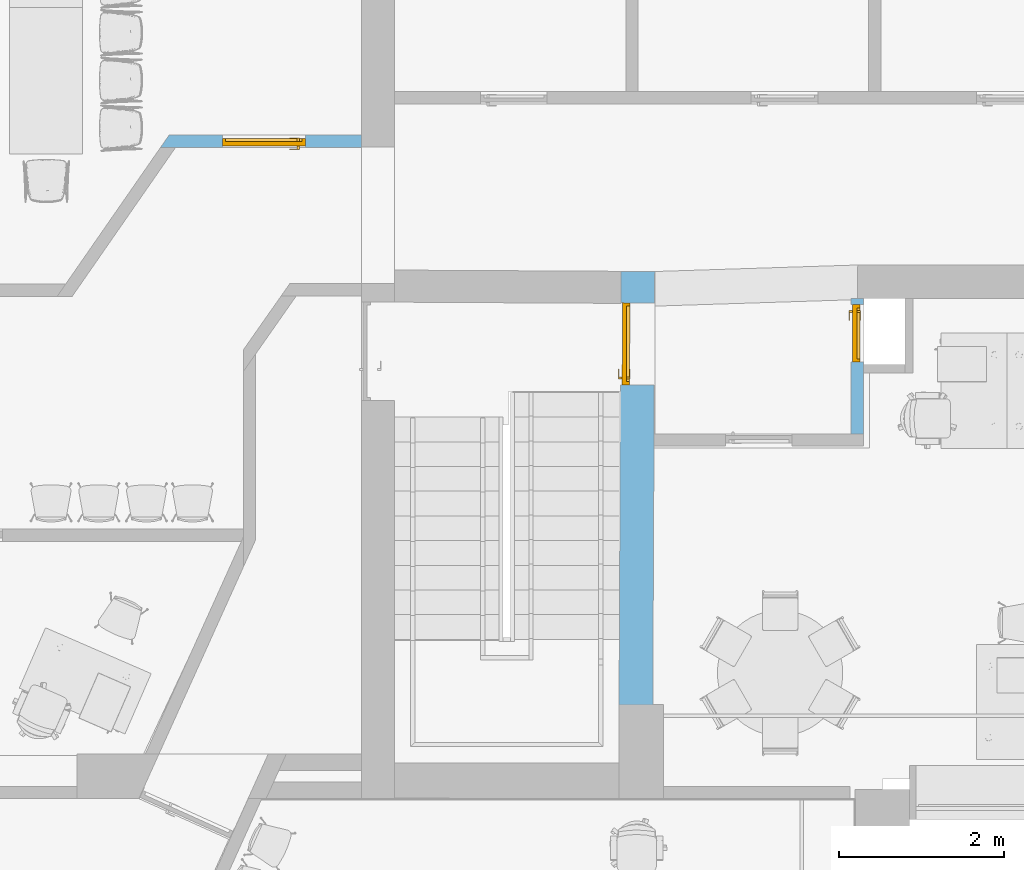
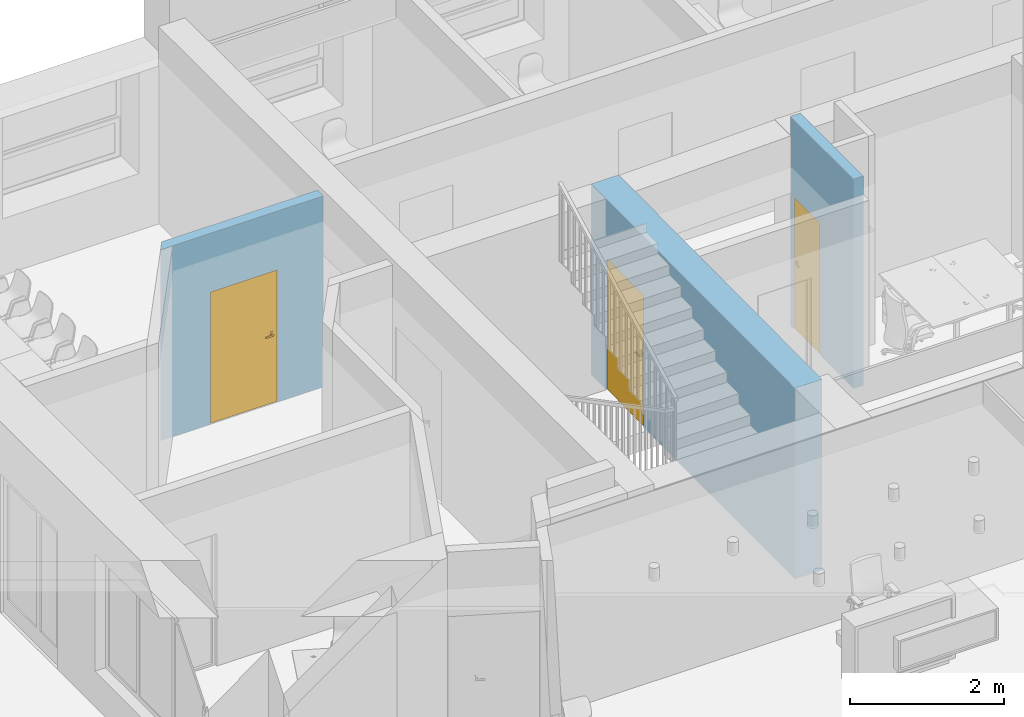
# One storey, part 16 of 25: 3 doors, 3 openings, plus 3 elements that do not belong to this part.
"""IFC2X3 building model written with IfcOpenShell, lengths in millimetres."""

from ifc_helpers import new_model, entity, si_unit, converted_unit, derived_unit, direction, frame, frame_2d, origin, place, context, subcontext, project, spatial, polyline, rectangle, outline, extrude, clip, bounded_halfspace, faceted_brep, source, transform, mapped, material, material_list, layer, layer_set, layer_usage, type_object, type_shapes, element, fill, save


model = new_model("IFC2X3")

# Units and contexts
model_context = context("Model", 3, precision=0.01, world=origin(), true_north=direction((6.12303176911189e-17, 1.0)))
context_of_model = context(None, 3, precision=0.01, world=origin(), true_north=direction((6.12303176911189e-17, 1.0)))
body_context = subcontext(model_context, "Body", "Model", "MODEL_VIEW")
ifc_project = project(units=[si_unit("LENGTHUNIT", "METRE", prefix="MILLI"), si_unit("AREAUNIT", "SQUARE_METRE"), si_unit("VOLUMEUNIT", "CUBIC_METRE"), converted_unit("PLANEANGLEUNIT", "DEGREE", entity("IfcRatioMeasure", 0.0174532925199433), si_unit("PLANEANGLEUNIT", "RADIAN"), dimensions=[0, 0, 0, 0, 0, 0, 0]), si_unit("MASSUNIT", "GRAM", prefix="KILO"), derived_unit("MASSDENSITYUNIT", [(si_unit("MASSUNIT", "GRAM", prefix="KILO"), 1), (si_unit("LENGTHUNIT", "METRE"), -3)]), si_unit("TIMEUNIT", "SECOND"), si_unit("FREQUENCYUNIT", "HERTZ"), si_unit("THERMODYNAMICTEMPERATUREUNIT", "DEGREE_CELSIUS"), derived_unit("THERMALTRANSMITTANCEUNIT", [(si_unit("MASSUNIT", "GRAM", prefix="KILO"), 1), (si_unit("THERMODYNAMICTEMPERATUREUNIT", "KELVIN"), -1), (si_unit("TIMEUNIT", "SECOND"), -3)]), derived_unit("VOLUMETRICFLOWRATEUNIT", [(si_unit("LENGTHUNIT", "METRE"), 3), (si_unit("TIMEUNIT", "SECOND"), -1)]), si_unit("ELECTRICCURRENTUNIT", "AMPERE"), si_unit("ELECTRICVOLTAGEUNIT", "VOLT"), si_unit("POWERUNIT", "WATT"), si_unit("FORCEUNIT", "NEWTON", prefix="KILO"), si_unit("ILLUMINANCEUNIT", "LUX"), si_unit("LUMINOUSFLUXUNIT", "LUMEN"), si_unit("LUMINOUSINTENSITYUNIT", "CANDELA"), derived_unit("USERDEFINED", [(si_unit("MASSUNIT", "GRAM", prefix="KILO"), -1), (si_unit("LENGTHUNIT", "METRE"), -2), (si_unit("TIMEUNIT", "SECOND"), 3), (si_unit("LUMINOUSFLUXUNIT", "LUMEN"), 1)]), derived_unit("LINEARVELOCITYUNIT", [(si_unit("LENGTHUNIT", "METRE"), 1), (si_unit("TIMEUNIT", "SECOND"), -1)]), si_unit("PRESSUREUNIT", "PASCAL"), derived_unit("USERDEFINED", [(si_unit("LENGTHUNIT", "METRE"), -2), (si_unit("MASSUNIT", "GRAM", prefix="KILO"), 1), (si_unit("TIMEUNIT", "SECOND"), -2)])], contexts=[model_context, context_of_model])

# Site, building, storey
site_placement = place(None, frame((121442.264707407, 135347.995453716, -1800.0)))
site = spatial("IfcSite", under=ifc_project, at=site_placement, Name="Surface", CompositionType="ELEMENT")
building_placement = place(site_placement, origin())
building = spatial("IfcBuilding", under=site, at=building_placement, CompositionType="ELEMENT")
storey_placement = place(building_placement, frame((0.0, 0.0, 1800.0)))
storey = spatial("IfcBuildingStorey", under=building, at=storey_placement, Name="1 korrus", CompositionType="ELEMENT", Elevation=1800.00000000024)

# Wall, opening, door
ifc_material_1 = material(Name="__Betoonelement")
ifc_layer_1 = layer(ifc_material_1, 410.0)
ifc_layer_set_1 = layer_set([ifc_layer_1], Name="Basic Wall:41_Betoon 2")
wall_type_1 = type_object("IfcWallType", Name="Basic Wall:41_Betoon 2", PredefinedType="STANDARD", material=ifc_layer_set_1)
wall_1_placement = place(storey_placement, frame((-106355.901559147, -126468.408114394, 0.0), z_axis=(0.0, 0.0, 1.0), x_axis=(0.00458720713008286, 0.999989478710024, 0.0)))
wall_1 = element("IfcWall", 1, at=wall_1_placement, inside=storey, type_object=wall_type_1, Name="Basic Wall:41_Betoon 2", ObjectType="Basic Wall:41_Betoon 2", context=body_context, shape_type="Brep", body=[
    faceted_brep([(0.0, -205.0, 3032.0), (0.0, -205.0, 0.0), (3954.58771050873, -205.0, 0.0), (3954.58771050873, -205.0, 2100.0), (4954.58771050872, -205.0, 2100.0), (4954.58771050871, -205.0, 0.0), (5336.07504407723, -205.0, 0.0), (5336.07504407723, -205.0, 3032.0), (0.0, 205.0, 3032.0), (4946.47448263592, 205.0, 3032.0), (5336.47466789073, 205.0, 3032.0), (5336.47466789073, 205.0, 0.0), (4954.58771050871, 205.0, 0.0), (4954.58771050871, 205.0, 2100.0), (3954.58771050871, 205.0, 2100.0), (3954.58771050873, 205.0, 0.0), (0.0, 205.0, 0.0), (0.0, 101.88665501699, 3032.0), (3863.98745761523, 50.0597495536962, 3032.0), (5336.30440070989, 30.3118513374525, 3032.0)], [[[0, 1, 2, 3, 4, 5, 6, 7]], [[8, 9, 10, 11, 12, 13, 14, 15, 16]], [[1, 16, 15, 2]], [[1, 0, 17, 8, 16]], [[10, 9, 8, 17, 18, 19]], [[6, 11, 10, 19, 7]], [[4, 13, 12, 5]], [[13, 4, 3, 14]], [[14, 3, 2, 15]], [[17, 0, 7, 19, 18]], [[11, 6, 5, 12]]]),
])
opening_1_placement = place(wall_1_placement, frame((3954.58771050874, -205.0, 0.0)))
opening_1 = element("IfcOpeningElement", 2, at=opening_1_placement, cuts=wall_1, Name="sma_D01:1000 x 2100mm SU-9 Tuletokke:1", ObjectType="Opening", context=body_context, shape_type="SweptSolid", body=[
    extrude(rectangle(XDim=2099.99999999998, YDim=1000.0, at=frame_2d((1049.99999999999, 500.0), x_axis=(1.0, 0.0))), frame((0.0, 0.0, 0.0), z_axis=(0.0, 1.0, 0.0), x_axis=(0.0, 0.0, 1.0)), (0.0, 0.0, 1.0), 410.0),
])
ifc_material_2 = material(Name="Metal - Aluminium")
ifc_material_3 = material(Name="Metalli - teras- valge")
ifc_material_list_1 = material_list([ifc_material_2, ifc_material_3])
ifc_material_list_2 = material_list([ifc_material_2, ifc_material_3])
door_style_1 = type_object("IfcDoorStyle", Name="1000 x 2100mm SU-9 Tuletokke", ConstructionType="NOTDEFINED", OperationType="SINGLE_SWING_RIGHT", ParameterTakesPrecedence=False, Sizeable=False, material=ifc_material_list_2)
shared_shape_1 = source(origin(), body_context, "Body", "Brep", [
    faceted_brep([(100.0, 300.0, 1112.5), (100.0, 338.0, 1112.5), (75.0, 338.0, 1112.5), (75.0, 295.0, 1112.5), (195.0, 295.0, 1112.5), (195.0, 300.0, 1112.5), (100.0, 300.0, 1087.5), (195.0, 300.0, 1087.5), (195.0, 295.0, 1087.5), (75.0, 295.0, 1087.5), (75.0, 338.0, 1087.5), (100.0, 338.0, 1087.5)], [[[0, 1, 2, 3, 4, 5]], [[6, 7, 8, 9, 10, 11]], [[1, 0, 6, 11]], [[2, 1, 11, 10]], [[3, 2, 10, 9]], [[4, 3, 9, 8]], [[5, 4, 8, 7]], [[0, 5, 7, 6]]]),
    faceted_brep([(112.499999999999, 338.0, 1137.5), (112.499999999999, 340.0, 1137.5), (62.4999999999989, 340.0, 1137.5), (62.4999999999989, 338.0, 1137.5), (112.499999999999, 338.0, 1017.5), (62.4999999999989, 338.0, 1017.5), (62.4999999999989, 340.0, 1017.5), (112.499999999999, 340.0, 1017.5)], [[[0, 1, 2, 3]], [[4, 5, 6, 7]], [[1, 0, 4, 7]], [[2, 1, 7, 6]], [[3, 2, 6, 5]], [[0, 3, 5, 4]]]),
    faceted_brep([(100.0, 430.0, 1112.5), (195.0, 430.0, 1112.5), (195.0, 435.0, 1112.5), (75.0, 435.0, 1112.5), (75.0, 392.0, 1112.5), (100.0, 392.0, 1112.5), (100.0, 430.0, 1087.5), (100.0, 392.0, 1087.5), (75.0, 392.0, 1087.5), (75.0, 435.0, 1087.5), (195.0, 435.0, 1087.5), (195.0, 430.0, 1087.5)], [[[0, 1, 2, 3, 4, 5]], [[6, 7, 8, 9, 10, 11]], [[5, 7, 6, 0]], [[4, 8, 7, 5]], [[3, 9, 8, 4]], [[2, 10, 9, 3]], [[1, 11, 10, 2]], [[0, 6, 11, 1]]]),
    faceted_brep([(112.499999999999, 392.0, 1137.5), (62.4999999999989, 392.0, 1137.5), (62.4999999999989, 390.0, 1137.5), (112.499999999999, 390.0, 1137.5), (112.499999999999, 392.0, 1017.5), (112.499999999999, 390.0, 1017.5), (62.4999999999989, 390.0, 1017.5), (62.4999999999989, 392.0, 1017.5)], [[[0, 1, 2, 3]], [[4, 5, 6, 7]], [[3, 5, 4, 0]], [[2, 6, 5, 3]], [[1, 7, 6, 2]], [[0, 4, 7, 1]]]),
    faceted_brep([(1000.0, 300.0, 0.0), (960.0, 300.0, 0.0), (960.0, 340.0, 0.0), (975.0, 340.0, 0.0), (975.0, 390.0, 0.0), (1000.0, 390.0, 0.0), (1000.0, 300.0, 2100.0), (0.0, 300.0, 2100.0), (0.0, 300.0, 0.0), (40.0, 300.0, 0.0), (40.0, 300.0, 2060.0), (960.0, 300.0, 2060.0), (960.0, 340.0, 2060.0), (40.0, 340.0, 2060.0), (40.0, 340.0, 0.0), (25.0, 340.0, 0.0), (25.0, 340.0, 2075.0), (975.0, 340.0, 2075.0), (975.0, 390.0, 2075.0), (25.0, 390.0, 2075.0), (25.0, 390.0, 0.0), (0.0, 390.0, 0.0), (0.0, 390.0, 2100.0), (1000.0, 390.0, 2100.0)], [[[0, 1, 2, 3, 4, 5]], [[1, 0, 6, 7, 8, 9, 10, 11]], [[2, 1, 11, 12]], [[3, 2, 12, 13, 14, 15, 16, 17]], [[4, 3, 17, 18]], [[5, 4, 18, 19, 20, 21, 22, 23]], [[0, 5, 23, 6]], [[7, 22, 21, 8]], [[8, 21, 20, 15, 14, 9]], [[13, 10, 9, 14]], [[19, 16, 15, 20]], [[12, 11, 10, 13]], [[18, 17, 16, 19]], [[6, 23, 22, 7]]]),
    faceted_brep([(25.0, 340.0, 2075.0), (25.0, 340.0, 20.0), (975.0, 340.0, 20.0), (975.0, 340.0, 2075.0), (25.0, 390.0, 2075.0), (975.0, 390.0, 2075.0), (975.0, 390.0, 20.0), (25.0, 390.0, 20.0)], [[[0, 1, 2, 3]], [[4, 5, 6, 7]], [[1, 0, 4, 7]], [[2, 1, 7, 6]], [[3, 2, 6, 5]], [[0, 3, 5, 4]]]),
    faceted_brep([(960.0, 300.0, 30.0), (960.0, 300.0, 0.0), (960.0, 340.0, 0.0), (960.0, 340.0, 20.0), (960.0, 340.0, 30.0), (40.0, 300.0, 30.0), (40.0, 340.0, 30.0), (40.0, 340.0, 20.0), (40.0, 340.0, 0.0), (40.0, 300.0, 0.0), (25.0, 340.0, 0.0), (25.0, 390.0, 0.0), (975.0, 390.0, 0.0), (975.0, 340.0, 0.0), (975.0, 390.0, 20.0), (975.0, 340.0, 20.0), (25.0, 390.0, 20.0), (25.0, 340.0, 20.0)], [[[0, 1, 2, 3, 4]], [[5, 6, 7, 8, 9]], [[1, 0, 5, 9]], [[2, 1, 9, 8, 10, 11, 12, 13]], [[6, 4, 3, 7]], [[0, 4, 6, 5]], [[14, 15, 13, 12]], [[16, 11, 10, 17]], [[15, 14, 16, 17, 7, 3]], [[13, 15, 3, 2]], [[14, 12, 11, 16]], [[17, 10, 8, 7]]]),
])
type_shapes(door_style_1, [shared_shape_1])
door_1_placement = place(opening_1_placement, origin())
door_1 = element("IfcDoor", 3, at=door_1_placement, inside=storey, type_object=door_style_1, material=ifc_material_list_1, Name="sma_D01:1000 x 2100mm SU-9 Tuletokke", ObjectType="1000 x 2100mm SU-9 Tuletokke", OverallHeight=2099.99999999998, OverallWidth=999.999999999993, context=body_context, shape_type="MappedRepresentation", body=[
    mapped(shared_shape_1, transform((0.0, 0.0, 0.0), scale=1.0)),
])
fill(opening_1, door_1)

ifc_material_4 = material(Name="Plaster")
ifc_layer_2 = layer(ifc_material_4, 10.0)
ifc_material_5 = material(Name="EST. Müüritis. Väikeplokk. Kergkruusplokk")
ifc_layer_3 = layer(ifc_material_5, 130.0)
ifc_layer_4 = layer(ifc_material_4, 10.0)
ifc_layer_set_2 = layer_set([ifc_layer_2, ifc_layer_3, ifc_layer_4], Name="Basic Wall:15_FIBO")
ifc_layer_usage_1 = layer_usage(ifc_layer_set_2, "AXIS2", "NEGATIVE", 75.0)
wall_type_2 = type_object("IfcWallType", Name="Basic Wall:15_FIBO", PredefinedType="STANDARD", material=ifc_layer_set_2)
wall_2_placement = place(storey_placement, frame((-109693.017140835, -119549.76856454, 0.0), z_axis=(0.0, 0.0, 1.0), x_axis=(-1.0, 0.0, 0.0)))
wall_2 = element("IfcWallStandardCase", 4, at=wall_2_placement, inside=storey, type_object=wall_type_2, material=ifc_layer_usage_1, Name="Basic Wall:15_FIBO", ObjectType="Basic Wall:15_FIBO", context=body_context, shape_type="Clipping", body=[
    clip(extrude(outline(polyline([(0.0, -75.0), (2336.84991209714, -75.0), (2440.97755361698, 75.0), (2258.378085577, 75.0), (0.0, 75.0), (0.0, -75.0)])), origin(), (0.0, 0.0, 1.0), 3032.0), bounded_halfspace(frame((0.0, -75.0, 3032.0), z_axis=(0.0, 0.0, -1.0), x_axis=(0.0, 1.0, 0.0)), True, frame((0.0, -75.0, 3032.0)), polyline([(0.0, 0.0), (2336.84991209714, 0.0), (2440.97755361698, 150.0), (2258.378085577, 150.0), (0.0, 150.0), (0.0, 0.0)]))),
])
opening_2_placement = place(wall_2_placement, frame((680.0, -75.0, 0.0)))
opening_2 = element("IfcOpeningElement", 5, at=opening_2_placement, cuts=wall_2, Name="sma_D01:1010 x 2110_SU-03 Siseuks:1", ObjectType="Opening", context=body_context, shape_type="SweptSolid", body=[
    extrude(rectangle(XDim=2099.99999999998, YDim=1010.0, at=frame_2d((1049.99999999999, 505.0), x_axis=(1.0, 0.0))), frame((0.0, 0.0, 0.0), z_axis=(0.0, 1.0, 0.0), x_axis=(0.0, 0.0, 1.0)), (0.0, 0.0, 1.0), 150.0),
])
ifc_material_6 = material(Name="Door - Panel_valge")
ifc_material_list_3 = material_list([ifc_material_2, ifc_material_6])
ifc_material_list_4 = material_list([ifc_material_2, ifc_material_6])
door_style_2 = type_object("IfcDoorStyle", Name="1010 x 2110_SU-03 Siseuks", ConstructionType="USERDEFINED", OperationType="SINGLE_SWING_RIGHT", ParameterTakesPrecedence=False, Sizeable=False, material=ifc_material_list_4)
shared_shape_2 = source(origin(), body_context, "Body", "Brep", [
    faceted_brep([(100.0, 40.0, 1112.5), (100.0, 78.0, 1112.5), (75.0, 78.0, 1112.5), (75.0, 35.0, 1112.5), (195.0, 35.0, 1112.5), (195.0, 40.0, 1112.5), (100.0, 40.0, 1087.5), (195.0, 40.0, 1087.5), (195.0, 35.0, 1087.5), (75.0, 35.0, 1087.5), (75.0, 78.0, 1087.5), (100.0, 78.0, 1087.5)], [[[0, 1, 2, 3, 4, 5]], [[6, 7, 8, 9, 10, 11]], [[1, 0, 6, 11]], [[2, 1, 11, 10]], [[3, 2, 10, 9]], [[4, 3, 9, 8]], [[5, 4, 8, 7]], [[0, 5, 7, 6]]]),
    faceted_brep([(112.499999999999, 78.0, 1137.5), (112.499999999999, 80.0, 1137.5), (62.4999999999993, 80.0, 1137.5), (62.4999999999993, 78.0, 1137.5), (112.499999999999, 78.0, 1017.5), (62.4999999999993, 78.0, 1017.5), (62.4999999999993, 80.0, 1017.5), (112.499999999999, 80.0, 1017.5)], [[[0, 1, 2, 3]], [[4, 5, 6, 7]], [[1, 0, 4, 7]], [[2, 1, 7, 6]], [[3, 2, 6, 5]], [[0, 3, 5, 4]]]),
    faceted_brep([(100.0, 170.0, 1112.5), (195.0, 170.0, 1112.5), (195.0, 175.0, 1112.5), (75.0, 175.0, 1112.5), (75.0, 132.0, 1112.5), (100.0, 132.0, 1112.5), (100.0, 170.0, 1087.5), (100.0, 132.0, 1087.5), (75.0, 132.0, 1087.5), (75.0, 175.0, 1087.5), (195.0, 175.0, 1087.5), (195.0, 170.0, 1087.5)], [[[0, 1, 2, 3, 4, 5]], [[6, 7, 8, 9, 10, 11]], [[5, 7, 6, 0]], [[4, 8, 7, 5]], [[3, 9, 8, 4]], [[2, 10, 9, 3]], [[1, 11, 10, 2]], [[0, 6, 11, 1]]]),
    faceted_brep([(112.499999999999, 132.0, 1137.5), (62.4999999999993, 132.0, 1137.5), (62.4999999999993, 130.0, 1137.5), (112.499999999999, 130.0, 1137.5), (112.499999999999, 132.0, 1017.5), (112.499999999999, 130.0, 1017.5), (62.4999999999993, 130.0, 1017.5), (62.4999999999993, 132.0, 1017.5)], [[[0, 1, 2, 3]], [[4, 5, 6, 7]], [[3, 5, 4, 0]], [[2, 6, 5, 3]], [[1, 7, 6, 2]], [[0, 4, 7, 1]]]),
    faceted_brep([(1010.0, 40.0, 0.0), (970.0, 40.0, 0.0), (970.0, 80.0, 0.0), (985.0, 80.0, 0.0), (985.0, 130.0, 0.0), (1010.0, 130.0, 0.0), (1010.0, 40.0, 2100.0), (0.0, 40.0, 2100.0), (0.0, 40.0, 0.0), (40.0, 40.0, 0.0), (40.0, 40.0, 2060.0), (970.0, 40.0, 2060.0), (970.0, 80.0, 2060.0), (40.0, 80.0, 2060.0), (40.0, 80.0, 0.0), (25.0, 80.0, 0.0), (25.0, 80.0, 2075.0), (985.0, 80.0, 2075.0), (985.0, 130.0, 2075.0), (25.0, 130.0, 2075.0), (25.0, 130.0, 0.0), (0.0, 130.0, 0.0), (0.0, 130.0, 2100.0), (1010.0, 130.0, 2100.0)], [[[0, 1, 2, 3, 4, 5]], [[1, 0, 6, 7, 8, 9, 10, 11]], [[2, 1, 11, 12]], [[3, 2, 12, 13, 14, 15, 16, 17]], [[4, 3, 17, 18]], [[5, 4, 18, 19, 20, 21, 22, 23]], [[0, 5, 23, 6]], [[7, 22, 21, 8]], [[8, 21, 20, 15, 14, 9]], [[13, 10, 9, 14]], [[19, 16, 15, 20]], [[12, 11, 10, 13]], [[18, 17, 16, 19]], [[6, 23, 22, 7]]]),
    faceted_brep([(25.0, 80.0, 2075.0), (25.0, 80.0, 20.0), (985.0, 80.0, 20.0), (985.0, 80.0, 2075.0), (25.0, 130.0, 2075.0), (985.0, 130.0, 2075.0), (985.0, 130.0, 20.0), (25.0, 130.0, 20.0)], [[[0, 1, 2, 3]], [[4, 5, 6, 7]], [[1, 0, 4, 7]], [[2, 1, 7, 6]], [[3, 2, 6, 5]], [[0, 3, 5, 4]]]),
    faceted_brep([(970.0, 40.0, 30.0), (970.0, 40.0, 0.0), (970.0, 80.0, 0.0), (970.0, 80.0, 20.0), (970.0, 80.0, 30.0), (40.0, 40.0, 30.0), (40.0, 80.0, 30.0), (40.0, 80.0, 20.0), (40.0, 80.0, 0.0), (40.0, 40.0, 0.0), (25.0, 80.0, 0.0), (25.0, 130.0, 0.0), (985.0, 130.0, 0.0), (985.0, 80.0, 0.0), (985.0, 130.0, 20.0), (985.0, 80.0, 20.0), (25.0, 130.0, 20.0), (25.0, 80.0, 20.0)], [[[0, 1, 2, 3, 4]], [[5, 6, 7, 8, 9]], [[1, 0, 5, 9]], [[2, 1, 9, 8, 10, 11, 12, 13]], [[6, 4, 3, 7]], [[0, 4, 6, 5]], [[14, 15, 13, 12]], [[16, 11, 10, 17]], [[15, 14, 16, 17, 7, 3]], [[13, 15, 3, 2]], [[14, 12, 11, 16]], [[17, 10, 8, 7]]]),
])
type_shapes(door_style_2, [shared_shape_2])
door_2_placement = place(opening_2_placement, origin())
door_2 = element("IfcDoor", 6, at=door_2_placement, inside=storey, type_object=door_style_2, material=ifc_material_list_3, Name="sma_D01:1010 x 2110_SU-03 Siseuks", ObjectType="1010 x 2110_SU-03 Siseuks", OverallHeight=2099.99999999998, OverallWidth=1010.0, context=body_context, shape_type="MappedRepresentation", body=[
    mapped(shared_shape_2, transform((0.0, 0.0, 0.0), scale=1.0)),
])
fill(opening_2, door_2)

ifc_layer_usage_2 = layer_usage(ifc_layer_set_2, "AXIS2", "POSITIVE", -75.0)
wall_3_placement = place(storey_placement, frame((-103664.740162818, -121464.059868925, 0.0), z_axis=(0.0, 0.0, 1.0), x_axis=(0.0, -1.0, 0.0)))
wall_3 = element("IfcWallStandardCase", 7, at=wall_3_placement, inside=storey, type_object=wall_type_2, material=ifc_layer_usage_2, Name="Basic Wall:15_FIBO", ObjectType="Basic Wall:15_FIBO", context=body_context, shape_type="SweptSolid", body=[
    extrude(rectangle(XDim=1642.60189269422, YDim=150.000000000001, at=frame_2d((821.300946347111, 0.0), x_axis=(-1.0, 0.0))), origin(), (0.0, 0.0, 1.0), 3325.0),
])
opening_3_placement = place(wall_3_placement, frame((770.0, 75.0, 0.0)))
opening_3 = element("IfcOpeningElement", 8, at=opening_3_placement, cuts=wall_3, Name="sma_D01:700 x 2100mm Tuletokke:1", ObjectType="Opening", context=body_context, shape_type="SweptSolid", body=[
    extrude(rectangle(XDim=2099.99999999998, YDim=700.0, at=frame_2d((1049.99999999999, 350.0), x_axis=(1.0, 0.0))), frame((0.0, 0.0, 0.0), z_axis=(0.0, -1.0, 0.0), x_axis=(0.0, 0.0, 1.0)), (0.0, 0.0, 1.0), 150.0),
])
ifc_material_7 = material(Name="NCS S 2005-Y50R Vaalea beige, matta, ruisku")
ifc_material_list_5 = material_list([ifc_material_2, ifc_material_7])
ifc_material_list_6 = material_list([ifc_material_2, ifc_material_7])
door_style_3 = type_object("IfcDoorStyle", Name="700 x 2100mm Tuletokke", ConstructionType="NOTDEFINED", OperationType="SINGLE_SWING_LEFT", ParameterTakesPrecedence=False, Sizeable=False, material=ifc_material_list_6)
shared_shape_3 = source(origin(), body_context, "Body", "Brep", [
    faceted_brep([(600.0, 40.0, 1112.5), (505.0, 40.0, 1112.5), (505.0, 35.0, 1112.5), (625.0, 35.0, 1112.5), (625.0, 78.0, 1112.5), (600.0, 78.0, 1112.5), (600.0, 40.0, 1087.5), (600.0, 78.0, 1087.5), (625.0, 78.0, 1087.5), (625.0, 35.0, 1087.5), (505.0, 35.0, 1087.5), (505.0, 40.0, 1087.5)], [[[0, 1, 2, 3, 4, 5]], [[6, 7, 8, 9, 10, 11]], [[5, 7, 6, 0]], [[4, 8, 7, 5]], [[3, 9, 8, 4]], [[2, 10, 9, 3]], [[1, 11, 10, 2]], [[0, 6, 11, 1]]]),
    faceted_brep([(587.500000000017, 78.0, 1137.5), (637.500000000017, 78.0, 1137.5), (637.500000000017, 80.0, 1137.5), (587.500000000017, 80.0, 1137.5), (587.500000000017, 78.0, 1017.5), (587.500000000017, 80.0, 1017.5), (637.500000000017, 80.0, 1017.5), (637.500000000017, 78.0, 1017.5)], [[[0, 1, 2, 3]], [[4, 5, 6, 7]], [[3, 5, 4, 0]], [[2, 6, 5, 3]], [[1, 7, 6, 2]], [[0, 4, 7, 1]]]),
    faceted_brep([(600.0, 170.0, 1112.5), (600.0, 132.0, 1112.5), (625.0, 132.0, 1112.5), (625.0, 175.0, 1112.5), (505.0, 175.0, 1112.5), (505.0, 170.0, 1112.5), (600.0, 170.0, 1087.5), (505.0, 170.0, 1087.5), (505.0, 175.0, 1087.5), (625.0, 175.0, 1087.5), (625.0, 132.0, 1087.5), (600.0, 132.0, 1087.5)], [[[0, 1, 2, 3, 4, 5]], [[6, 7, 8, 9, 10, 11]], [[1, 0, 6, 11]], [[2, 1, 11, 10]], [[3, 2, 10, 9]], [[4, 3, 9, 8]], [[5, 4, 8, 7]], [[0, 5, 7, 6]]]),
    faceted_brep([(587.500000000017, 132.0, 1137.5), (587.500000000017, 130.0, 1137.5), (637.500000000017, 130.0, 1137.5), (637.500000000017, 132.0, 1137.5), (587.500000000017, 132.0, 1017.5), (637.500000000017, 132.0, 1017.5), (637.500000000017, 130.0, 1017.5), (587.500000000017, 130.0, 1017.5)], [[[0, 1, 2, 3]], [[4, 5, 6, 7]], [[1, 0, 4, 7]], [[2, 1, 7, 6]], [[3, 2, 6, 5]], [[0, 3, 5, 4]]]),
    faceted_brep([(0.0, 40.0, 0.0), (0.0, 130.0, 0.0), (25.0, 130.0, 0.0), (25.0, 80.0, 0.0), (40.0, 80.0, 0.0), (40.0, 40.0, 0.0), (40.0, 40.0, 2060.0), (660.0, 40.0, 2060.0), (660.0, 40.0, 0.0), (700.0, 40.0, 0.0), (700.0, 40.0, 2100.0), (0.0, 40.0, 2100.0), (40.0, 80.0, 2060.0), (25.0, 80.0, 2075.0), (675.0, 80.0, 2075.0), (675.0, 80.0, 0.0), (660.0, 80.0, 0.0), (660.0, 80.0, 2060.0), (25.0, 130.0, 2075.0), (0.0, 130.0, 2100.0), (700.0, 130.0, 2100.0), (700.0, 130.0, 0.0), (675.0, 130.0, 0.0), (675.0, 130.0, 2075.0)], [[[0, 1, 2, 3, 4, 5]], [[5, 6, 7, 8, 9, 10, 11, 0]], [[4, 12, 6, 5]], [[3, 13, 14, 15, 16, 17, 12, 4]], [[2, 18, 13, 3]], [[1, 19, 20, 21, 22, 23, 18, 2]], [[0, 11, 19, 1]], [[10, 9, 21, 20]], [[9, 8, 16, 15, 22, 21]], [[17, 16, 8, 7]], [[23, 22, 15, 14]], [[12, 17, 7, 6]], [[18, 23, 14, 13]], [[11, 10, 20, 19]]]),
    faceted_brep([(675.0, 80.0, 2075.0), (25.0, 80.0, 2075.0), (25.0, 80.0, 20.0), (675.0, 80.0, 20.0), (675.0, 130.0, 2075.0), (675.0, 130.0, 20.0), (25.0, 130.0, 20.0), (25.0, 130.0, 2075.0)], [[[0, 1, 2, 3]], [[4, 5, 6, 7]], [[3, 5, 4, 0]], [[2, 6, 5, 3]], [[1, 7, 6, 2]], [[0, 4, 7, 1]]]),
    faceted_brep([(40.0, 40.0, 30.0), (40.0, 80.0, 30.0), (40.0, 80.0, 20.0), (40.0, 80.0, 0.0), (40.0, 40.0, 0.0), (660.0, 40.0, 30.0), (660.0, 40.0, 0.0), (660.0, 80.0, 0.0), (660.0, 80.0, 20.0), (660.0, 80.0, 30.0), (25.0, 80.0, 0.0), (25.0, 130.0, 0.0), (675.0, 130.0, 0.0), (675.0, 80.0, 0.0), (25.0, 130.0, 20.0), (25.0, 80.0, 20.0), (675.0, 130.0, 20.0), (675.0, 80.0, 20.0)], [[[0, 1, 2, 3, 4]], [[5, 6, 7, 8, 9]], [[4, 6, 5, 0]], [[3, 10, 11, 12, 13, 7, 6, 4]], [[9, 8, 2, 1]], [[0, 5, 9, 1]], [[14, 11, 10, 15]], [[16, 17, 13, 12]], [[15, 2, 8, 17, 16, 14]], [[10, 3, 2, 15]], [[14, 16, 12, 11]], [[17, 8, 7, 13]]]),
])
type_shapes(door_style_3, [shared_shape_3])
door_3_placement = place(opening_3_placement, frame((0.0, 0.0, 0.0), z_axis=(0.0, 0.0, 1.0), x_axis=(-1.0, 0.0, 0.0)))
door_3 = element("IfcDoor", 9, at=door_3_placement, inside=storey, type_object=door_style_3, material=ifc_material_list_5, Name="sma_D01:700 x 2100mm Tuletokke", ObjectType="700 x 2100mm Tuletokke", OverallHeight=2099.99999999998, OverallWidth=699.999999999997, context=body_context, shape_type="MappedRepresentation", body=[
    mapped(shared_shape_3, transform((0.0, 0.0, 0.0), scale=1.0)),
])
fill(opening_3, door_3)

save(model, "model.ifc")
